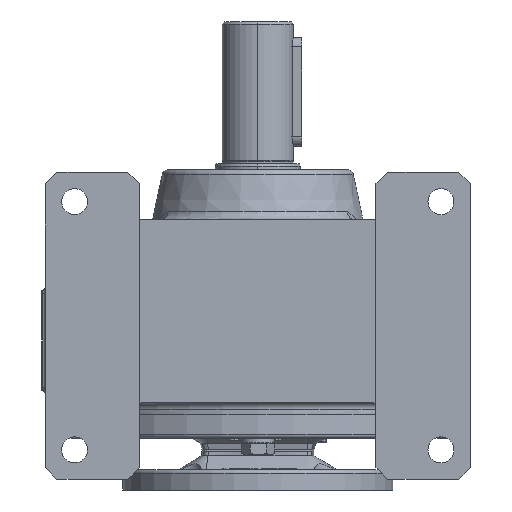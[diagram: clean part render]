
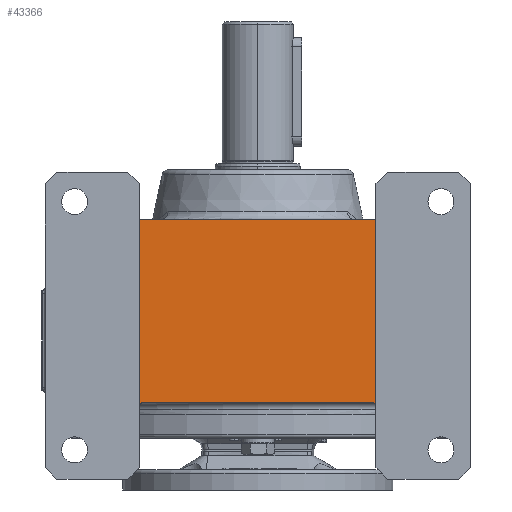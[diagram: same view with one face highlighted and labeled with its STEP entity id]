
A CAD part, front view. The second image highlights one B-rep face of the part: STEP entity #43366.
In plain terms, the highlighted planar face has unit normal (0, -1, 0).
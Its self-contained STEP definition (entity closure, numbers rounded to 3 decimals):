
#5331 = AXIS2_PLACEMENT_3D ( 'NONE', #7267, #7269, #7271 ) ;
#5340 = AXIS2_PLACEMENT_3D ( 'NONE', #7273, #7287, #7289 ) ;
#5341 = VECTOR ( 'NONE', #7279, 1000. ) ;
#5342 = VECTOR ( 'NONE', #7285, 1000. ) ;
#5343 = VECTOR ( 'NONE', #7296, 1000. ) ;
#5344 = VECTOR ( 'NONE', #7302, 1000. ) ;
#7267 = CARTESIAN_POINT ( 'NONE',  ( -97., -135., -158. ) ) ;
#7269 = DIRECTION ( 'NONE',  ( 0., 1., 0. ) ) ;
#7271 = DIRECTION ( 'NONE',  ( 0., 0., 1. ) ) ;
#7273 = CARTESIAN_POINT ( 'NONE',  ( 97., -135., -158. ) ) ;
#7275 = LINE ( 'NONE', #7277, #5341 ) ;
#7277 = CARTESIAN_POINT ( 'NONE',  ( -100., -135., -30. ) ) ;
#7279 = DIRECTION ( 'NONE',  ( 0., 0., 1. ) ) ;
#7281 = LINE ( 'NONE', #7283, #5342 ) ;
#7283 = CARTESIAN_POINT ( 'NONE',  ( -180., -135., -155. ) ) ;
#7285 = DIRECTION ( 'NONE',  ( 1., 0., 0. ) ) ;
#7287 = DIRECTION ( 'NONE',  ( 0., 1., 0. ) ) ;
#7289 = DIRECTION ( 'NONE',  ( 0., 0., 1. ) ) ;
#7292 = LINE ( 'NONE', #7294, #5343 ) ;
#7294 = CARTESIAN_POINT ( 'NONE',  ( 100., -135., -30. ) ) ;
#7296 = DIRECTION ( 'NONE',  ( 0., 0., -1. ) ) ;
#7298 = LINE ( 'NONE', #7300, #5344 ) ;
#7300 = CARTESIAN_POINT ( 'NONE',  ( -193.636, -135., 0. ) ) ;
#7302 = DIRECTION ( 'NONE',  ( -1., 0., 0. ) ) ;
#11678 = PLANE ( 'NONE',  #79991 ) ;
#11679 = CARTESIAN_POINT ( 'NONE',  ( -193.636, -135., -165. ) ) ;
#11680 = DIRECTION ( 'NONE',  ( 0., 1., 0. ) ) ;
#11681 = DIRECTION ( 'NONE',  ( 0., 0., 1. ) ) ;
#36522 = VERTEX_POINT ( 'NONE', #74117 ) ;
#36548 = VERTEX_POINT ( 'NONE', #74130 ) ;
#36583 = VERTEX_POINT ( 'NONE', #74147 ) ;
#36585 = VERTEX_POINT ( 'NONE', #74148 ) ;
#36601 = VERTEX_POINT ( 'NONE', #74156 ) ;
#36609 = VERTEX_POINT ( 'NONE', #74160 ) ;
#37213 = CIRCLE ( 'NONE', #5331, 3. ) ;
#37214 = CIRCLE ( 'NONE', #5340, 3. ) ;
#43366 = ADVANCED_FACE ( 'NONE', ( #80000 ), #11678, .F. ) ;
#71369 = EDGE_LOOP ( 'NONE', ( #80793, #80795, #80794, #80796, #80797, #80798 ) ) ;
#74117 = CARTESIAN_POINT ( 'NONE',  ( 100., -135., -158. ) ) ;
#74130 = CARTESIAN_POINT ( 'NONE',  ( 100., -135., 0. ) ) ;
#74147 = CARTESIAN_POINT ( 'NONE',  ( 97., -135., -155. ) ) ;
#74148 = CARTESIAN_POINT ( 'NONE',  ( -97., -135., -155. ) ) ;
#74156 = CARTESIAN_POINT ( 'NONE',  ( -100., -135., 0. ) ) ;
#74160 = CARTESIAN_POINT ( 'NONE',  ( -100., -135., -158. ) ) ;
#79991 = AXIS2_PLACEMENT_3D ( 'NONE', #11679, #11680, #11681 ) ;
#80000 = FACE_OUTER_BOUND ( 'NONE', #71369, .T. ) ;
#80069 = EDGE_CURVE ( 'NONE', #36609, #36585, #37213, .T. ) ;
#80071 = EDGE_CURVE ( 'NONE', #36609, #36601, #7275, .T. ) ;
#80073 = EDGE_CURVE ( 'NONE', #36585, #36583, #7281, .T. ) ;
#80075 = EDGE_CURVE ( 'NONE', #36583, #36522, #37214, .T. ) ;
#80077 = EDGE_CURVE ( 'NONE', #36548, #36522, #7292, .T. ) ;
#80080 = EDGE_CURVE ( 'NONE', #36548, #36601, #7298, .T. ) ;
#80793 = ORIENTED_EDGE ( 'NONE', *, *, #80071, .F. ) ;
#80794 = ORIENTED_EDGE ( 'NONE', *, *, #80073, .T. ) ;
#80795 = ORIENTED_EDGE ( 'NONE', *, *, #80069, .T. ) ;
#80796 = ORIENTED_EDGE ( 'NONE', *, *, #80075, .T. ) ;
#80797 = ORIENTED_EDGE ( 'NONE', *, *, #80077, .F. ) ;
#80798 = ORIENTED_EDGE ( 'NONE', *, *, #80080, .T. ) ;
